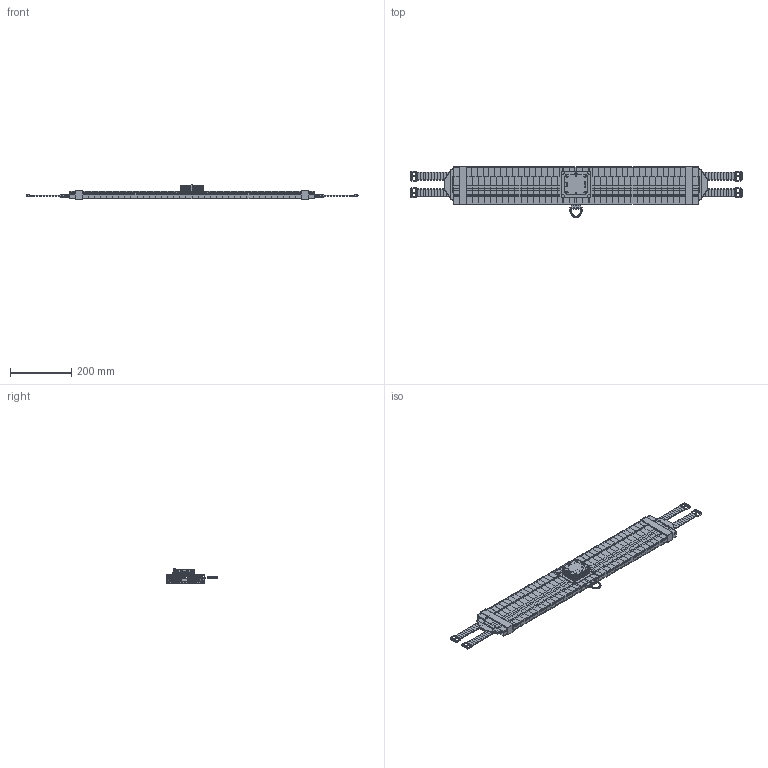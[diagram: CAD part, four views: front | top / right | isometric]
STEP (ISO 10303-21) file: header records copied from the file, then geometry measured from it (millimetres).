
FILE_DESCRIPTION(('AVO Performance Horse - montaje de la cincha (B-rep poliedrico)'),'2;1');
FILE_NAME('AVO_CINCHA_MONTAJE_RECTO','2026-11-15T12:00:00',('AVO Performance Horse'),('AVO Performance Horse'),'avo_cad.py','avo_cad.py (numpy)','');
FILE_SCHEMA(('AUTOMOTIVE_DESIGN { 1 0 10303 214 1 1 1 1 }'));
Length unit declared in the file: millimetre
Products named in the file (9): Soporte_impreso; Soporte_compra; Capsula_impresa; Capsula_electronica; Electrodos; Funda; Cables; Cincha; AVO_CINCHA_MONTAJE_RECTO
Assembly tree (8 placements, depth 2):
  AVO_CINCHA_MONTAJE_RECTO
    Soporte_impreso
    Soporte_compra
    Capsula_impresa
    Capsula_electronica
    Electrodos
    Funda
    Cables
    Cincha
Bounding box: 1087 x 169.7 x 49.14 mm (x, y, z)
Volume: 1561096.8 mm3; surface area: 1227693.1 mm2
Topology: 220 solids, 220 shells, 28768 faces, 58416 edges, 30158 vertices
Faces by surface type: plane 28768
Entity records: 526548 total; most frequent: ORIENTED_EDGE 117112, VECTOR 58556, LINE 58556, EDGE_CURVE 58556, VERTEX_POINT 30306, CARTESIAN_POINT 30166, EDGE_LOOP 29002, AXIS2_PLACEMENT_3D 28782
